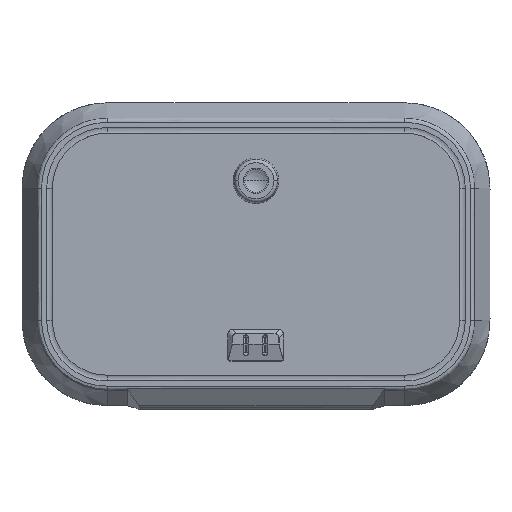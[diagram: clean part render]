
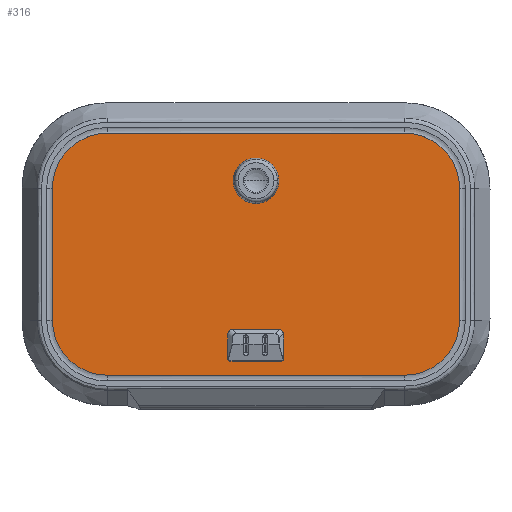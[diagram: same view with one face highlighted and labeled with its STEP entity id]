
A CAD part, front view. The second image highlights one B-rep face of the part: STEP entity #316.
In plain terms, the highlighted planar face has unit normal (0, -1, 0).
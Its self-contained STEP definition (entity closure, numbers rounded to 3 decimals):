
#1=CARTESIAN_POINT('',(178.8,0.,-41.8));
#2=DIRECTION('',(0.,-1.,0.));
#3=DIRECTION('',(1.,0.,0.));
#4=AXIS2_PLACEMENT_3D('',#1,#2,#3);
#6=CARTESIAN_POINT('',(178.8,0.,-41.8));
#7=DIRECTION('',(0.,-1.,0.));
#8=DIRECTION('',(-1.,0.,0.));
#9=AXIS2_PLACEMENT_3D('',#6,#7,#8);
#11=DIRECTION('',(1.,0.,0.));
#12=VECTOR('',#11,261.1);
#13=CARTESIAN_POINT('',(48.25,0.,0.));
#14=LINE('',#13,#12);
#15=CARTESIAN_POINT('',(309.35,0.,-48.25));
#16=DIRECTION('',(0.,1.,0.));
#17=DIRECTION('',(0.,0.,1.));
#18=AXIS2_PLACEMENT_3D('',#15,#16,#17);
#20=DIRECTION('',(0.,0.,-1.));
#21=VECTOR('',#20,116.1);
#22=CARTESIAN_POINT('',(357.6,0.,-48.25));
#23=LINE('',#22,#21);
#24=CARTESIAN_POINT('',(309.35,0.,-164.35));
#25=DIRECTION('',(0.,1.,0.));
#26=DIRECTION('',(1.,0.,0.));
#27=AXIS2_PLACEMENT_3D('',#24,#25,#26);
#29=DIRECTION('',(-1.,0.,0.));
#30=VECTOR('',#29,261.1);
#31=CARTESIAN_POINT('',(309.35,0.,-212.6));
#32=LINE('',#31,#30);
#33=CARTESIAN_POINT('',(48.25,0.,-164.35));
#34=DIRECTION('',(0.,1.,0.));
#35=DIRECTION('',(0.,0.,-1.));
#36=AXIS2_PLACEMENT_3D('',#33,#34,#35);
#38=DIRECTION('',(0.,0.,1.));
#39=VECTOR('',#38,116.1);
#40=CARTESIAN_POINT('',(0.,0.,-164.35));
#41=LINE('',#40,#39);
#42=CARTESIAN_POINT('',(48.25,0.,-48.25));
#43=DIRECTION('',(0.,1.,0.));
#44=DIRECTION('',(-1.,0.,0.));
#45=AXIS2_PLACEMENT_3D('',#42,#43,#44);
#47=CARTESIAN_POINT('',(193.3,0.,-181.6));
#48=DIRECTION('',(0.,-1.,0.));
#49=DIRECTION('',(0.,0.,-1.));
#50=AXIS2_PLACEMENT_3D('',#47,#48,#49);
#52=DIRECTION('',(-1.,0.,0.));
#53=VECTOR('',#52,29.);
#54=CARTESIAN_POINT('',(193.3,0.,-176.1));
#55=LINE('',#54,#53);
#56=CARTESIAN_POINT('',(164.3,0.,-181.6));
#57=DIRECTION('',(0.,-1.,0.));
#58=DIRECTION('',(0.,0.,1.));
#59=AXIS2_PLACEMENT_3D('',#56,#57,#58);
#61=DIRECTION('',(1.,0.,0.));
#62=VECTOR('',#61,29.);
#63=CARTESIAN_POINT('',(164.3,0.,-187.1));
#64=LINE('',#63,#62);
#213=CARTESIAN_POINT('',(186.3,0.,-41.8));
#214=CARTESIAN_POINT('',(171.3,0.,-41.8));
#215=VERTEX_POINT('',#213);
#216=VERTEX_POINT('',#214);
#217=CARTESIAN_POINT('',(48.25,0.,0.));
#218=CARTESIAN_POINT('',(309.35,0.,0.));
#219=VERTEX_POINT('',#217);
#220=VERTEX_POINT('',#218);
#221=CARTESIAN_POINT('',(357.6,0.,-48.25));
#222=VERTEX_POINT('',#221);
#223=CARTESIAN_POINT('',(357.6,0.,-164.35));
#224=VERTEX_POINT('',#223);
#225=CARTESIAN_POINT('',(309.35,0.,-212.6));
#226=VERTEX_POINT('',#225);
#227=CARTESIAN_POINT('',(48.25,0.,-212.6));
#228=VERTEX_POINT('',#227);
#229=CARTESIAN_POINT('',(0.,0.,-164.35));
#230=VERTEX_POINT('',#229);
#231=CARTESIAN_POINT('',(0.,0.,-48.25));
#232=VERTEX_POINT('',#231);
#233=CARTESIAN_POINT('',(193.3,0.,-187.1));
#234=CARTESIAN_POINT('',(193.3,0.,-176.1));
#235=VERTEX_POINT('',#233);
#236=VERTEX_POINT('',#234);
#237=CARTESIAN_POINT('',(164.3,0.,-176.1));
#238=VERTEX_POINT('',#237);
#239=CARTESIAN_POINT('',(164.3,0.,-187.1));
#240=VERTEX_POINT('',#239);
#277=CARTESIAN_POINT('',(0.,0.,0.));
#278=DIRECTION('',(0.,1.,0.));
#279=DIRECTION('',(1.,0.,0.));
#280=AXIS2_PLACEMENT_3D('',#277,#278,#279);
#281=PLANE('',#280);
#283=ORIENTED_EDGE('',*,*,#282,.T.);
#285=ORIENTED_EDGE('',*,*,#284,.T.);
#287=ORIENTED_EDGE('',*,*,#286,.T.);
#289=ORIENTED_EDGE('',*,*,#288,.T.);
#291=ORIENTED_EDGE('',*,*,#290,.T.);
#293=ORIENTED_EDGE('',*,*,#292,.T.);
#295=ORIENTED_EDGE('',*,*,#294,.T.);
#297=ORIENTED_EDGE('',*,*,#296,.T.);
#298=EDGE_LOOP('',(#283,#285,#287,#289,#291,#293,#295,#297));
#299=FACE_OUTER_BOUND('',#298,.F.);
#301=ORIENTED_EDGE('',*,*,#300,.T.);
#303=ORIENTED_EDGE('',*,*,#302,.T.);
#304=EDGE_LOOP('',(#301,#303));
#305=FACE_BOUND('',#304,.F.);
#307=ORIENTED_EDGE('',*,*,#306,.T.);
#309=ORIENTED_EDGE('',*,*,#308,.T.);
#311=ORIENTED_EDGE('',*,*,#310,.T.);
#313=ORIENTED_EDGE('',*,*,#312,.T.);
#314=EDGE_LOOP('',(#307,#309,#311,#313));
#315=FACE_BOUND('',#314,.F.);
#316=ADVANCED_FACE('',(#299,#305,#315),#281,.F.);
#5=CIRCLE('',#4,7.5);
#10=CIRCLE('',#9,7.5);
#19=CIRCLE('',#18,48.25);
#28=CIRCLE('',#27,48.25);
#37=CIRCLE('',#36,48.25);
#46=CIRCLE('',#45,48.25);
#51=CIRCLE('',#50,5.5);
#60=CIRCLE('',#59,5.5);
#282=EDGE_CURVE('',#219,#220,#14,.T.);
#284=EDGE_CURVE('',#220,#222,#19,.T.);
#286=EDGE_CURVE('',#222,#224,#23,.T.);
#288=EDGE_CURVE('',#224,#226,#28,.T.);
#290=EDGE_CURVE('',#226,#228,#32,.T.);
#292=EDGE_CURVE('',#228,#230,#37,.T.);
#294=EDGE_CURVE('',#230,#232,#41,.T.);
#296=EDGE_CURVE('',#232,#219,#46,.T.);
#300=EDGE_CURVE('',#215,#216,#5,.T.);
#302=EDGE_CURVE('',#216,#215,#10,.T.);
#306=EDGE_CURVE('',#235,#236,#51,.T.);
#308=EDGE_CURVE('',#236,#238,#55,.T.);
#310=EDGE_CURVE('',#238,#240,#60,.T.);
#312=EDGE_CURVE('',#240,#235,#64,.T.);
